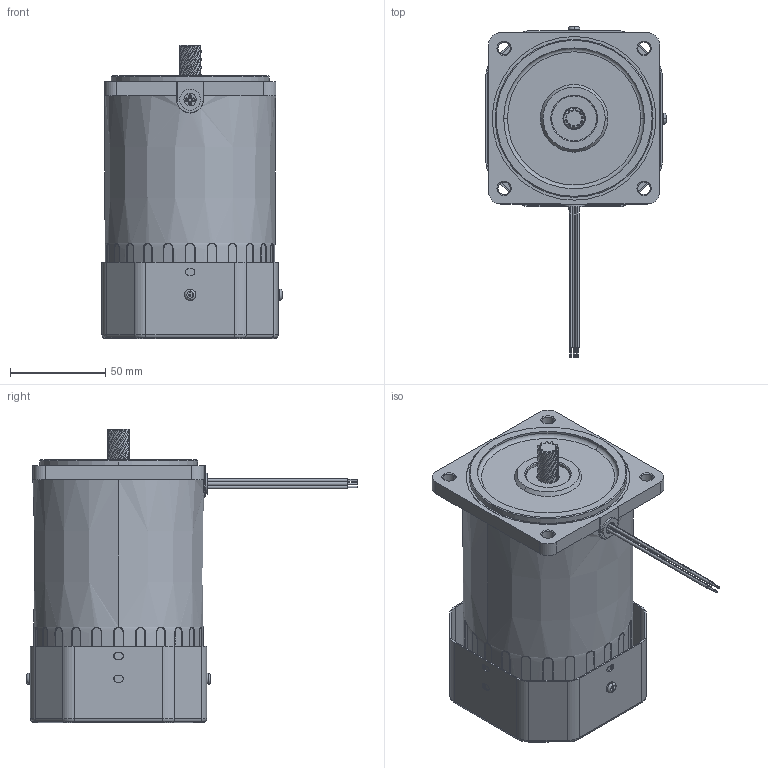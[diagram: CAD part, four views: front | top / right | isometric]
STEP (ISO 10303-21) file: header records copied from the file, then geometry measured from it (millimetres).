
FILE_DESCRIPTION (( 'STEP AP214' ), '1' );
FILE_NAME ('ACP-M-5IK90U.STEP', '2009-11-18T22:28:38', ( 'Tim Raines' ), ( 'Anaheim Automation' ), 'SwSTEP 2.0', 'SolidWorks 2009', '' );
FILE_SCHEMA (( 'AUTOMOTIVE_DESIGN' ));
Length unit declared in the file: millimetre
Products named in the file (1): ACP-M-5IK90U
Bounding box: 94.6 x 173.8 x 154 mm (x, y, z)
Volume: 791936.2 mm3; surface area: 105903.1 mm2
Topology: 2 solids, 2 shells, 1031 faces, 2595 edges, 1594 vertices
Faces by surface type: plane 342, cylinder 337, bspline 282, torus 44, cone 26
Entity records: 57101 total; most frequent: CARTESIAN_POINT 23453, ORIENTED_EDGE 5178, DIRECTION 4313, EDGE_CURVE 2589, AXIS2_PLACEMENT_3D 1652, VERTEX_POINT 1594, EDGE_LOOP 1107, FACE_OUTER_BOUND 1031
